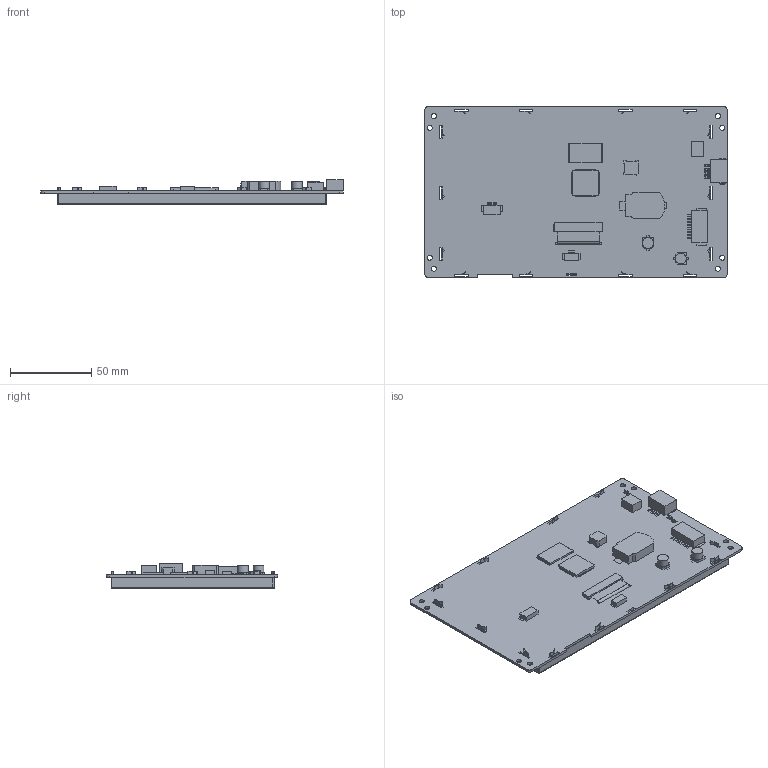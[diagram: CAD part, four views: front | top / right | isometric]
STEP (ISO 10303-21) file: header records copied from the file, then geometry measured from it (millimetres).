
FILE_DESCRIPTION(/* description */ (''),/* implementation_level */ '2;1');
FILE_NAME(/* name */ '3D_SDWe070T77.stp',/* time_stamp */ '2020-09-10T17:16:17+08:00',/* author */ (''),/* organization */ (''),/* preprocessor_version */ 'ST-DEVELOPER v15',/* originating_system */ 'SIEMENS PLM Software NX 8.5',/* authorisation */ '');
FILE_SCHEMA (('AP203_CONFIGURATION_CONTROLLED_3D_DESIGN_OF_MECHANICAL_PARTS_AND_ASSEMBLIES_MIM_LF { 1 0 10303 403 2 1 2}'));
Length unit declared in the file: millimetre
Products named in the file (1): SDWe070T77
Bounding box: 186.3 x 105.4 x 15.31 mm (x, y, z)
Volume: 221968.2 mm3; surface area: 126955.2 mm2
Topology: 314 solids, 314 shells, 2107 faces, 4411 edges, 2932 vertices
Faces by surface type: plane 2046, cylinder 57, extrusion 4
Full cylindrical faces by diameter (mm): 3.2 x8, 6.567 x1, 6.776 x1
Entity records: 58466 total; most frequent: CARTESIAN_POINT 9668, ORIENTED_EDGE 8794, DIRECTION 8714, EDGE_CURVE 4397, VECTOR 4278, LINE 4274, VERTEX_POINT 2932, AXIS2_PLACEMENT_3D 2218
